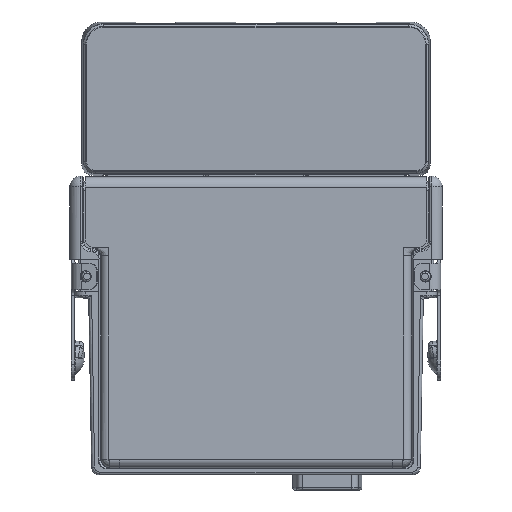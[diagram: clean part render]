
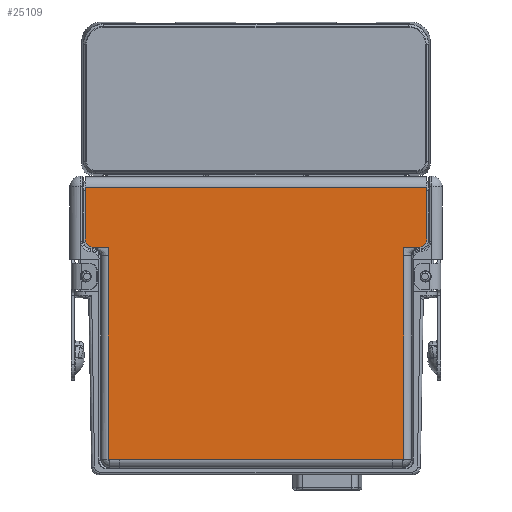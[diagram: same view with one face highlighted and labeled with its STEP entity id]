
A CAD part, left-side view. The second image highlights one B-rep face of the part: STEP entity #25109.
In plain terms, the highlighted planar face has unit normal (-1, 0, 0).
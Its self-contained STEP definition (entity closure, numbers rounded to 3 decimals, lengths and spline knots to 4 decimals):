
#14=DIRECTION('',(0.,-1.,0.));
#15=VECTOR('',#14,3.179);
#16=CARTESIAN_POINT('',(-0.4475,1.5895,2.676));
#17=LINE('',#16,#15);
#68=CARTESIAN_POINT('',(-0.4475,1.5095,2.2));
#69=DIRECTION('',(-1.,0.,0.));
#70=DIRECTION('',(0.,1.,0.));
#71=AXIS2_PLACEMENT_3D('',#68,#69,#70);
#73=DIRECTION('',(0.,-1.,0.));
#74=VECTOR('',#73,0.133);
#75=CARTESIAN_POINT('',(-0.4475,1.5095,2.12));
#76=LINE('',#75,#74);
#85=DIRECTION('',(0.,0.,-1.));
#86=VECTOR('',#85,0.476);
#87=CARTESIAN_POINT('',(-0.4475,1.5895,2.676));
#88=LINE('',#87,#86);
#89=DIRECTION('',(0.,0.,1.));
#90=VECTOR('',#89,0.476);
#91=CARTESIAN_POINT('',(-0.4475,-1.5895,2.2));
#92=LINE('',#91,#90);
#93=DIRECTION('',(0.,0.,1.));
#94=VECTOR('',#93,0.079);
#95=CARTESIAN_POINT('',(-0.4475,-1.3765,2.041));
#96=LINE('',#95,#94);
#97=DIRECTION('',(0.,-1.,0.));
#98=VECTOR('',#97,0.105);
#99=CARTESIAN_POINT('',(-0.4475,-1.2715,0.146));
#100=LINE('',#99,#98);
#101=DIRECTION('',(0.,-1.,0.));
#102=VECTOR('',#101,0.105);
#103=CARTESIAN_POINT('',(-0.4475,1.3765,0.146));
#104=LINE('',#103,#102);
#105=DIRECTION('',(0.,0.,1.));
#106=VECTOR('',#105,0.079);
#107=CARTESIAN_POINT('',(-0.4475,1.3765,2.041));
#108=LINE('',#107,#106);
#126=CARTESIAN_POINT('',(-0.4475,-1.5095,2.2));
#127=DIRECTION('',(-1.,0.,0.));
#128=DIRECTION('',(0.,0.,-1.));
#129=AXIS2_PLACEMENT_3D('',#126,#127,#128);
#163=DIRECTION('',(0.,0.,1.));
#164=VECTOR('',#163,1.895);
#165=CARTESIAN_POINT('',(-0.4475,1.3765,0.146));
#166=LINE('',#165,#164);
#222=DIRECTION('',(0.,-1.,0.));
#223=VECTOR('',#222,2.543);
#224=CARTESIAN_POINT('',(-0.4475,1.2715,0.146));
#225=LINE('',#224,#223);
#238=DIRECTION('',(0.,0.,1.));
#239=VECTOR('',#238,1.895);
#240=CARTESIAN_POINT('',(-0.4475,-1.3765,0.146));
#241=LINE('',#240,#239);
#273=DIRECTION('',(0.,-1.,0.));
#274=VECTOR('',#273,0.133);
#275=CARTESIAN_POINT('',(-0.4475,-1.3765,2.12));
#276=LINE('',#275,#274);
#23966=CARTESIAN_POINT('',(-0.4475,-1.5895,2.676));
#23967=VERTEX_POINT('',#23966);
#23968=CARTESIAN_POINT('',(-0.4475,1.5895,2.676));
#23969=VERTEX_POINT('',#23968);
#23998=CARTESIAN_POINT('',(-0.4475,1.2715,0.146));
#23999=CARTESIAN_POINT('',(-0.4475,-1.2715,0.146));
#24000=VERTEX_POINT('',#23998);
#24001=VERTEX_POINT('',#23999);
#24010=CARTESIAN_POINT('',(-0.4475,-1.3765,0.146));
#24011=VERTEX_POINT('',#24010);
#24022=CARTESIAN_POINT('',(-0.4475,1.3765,0.146));
#24023=VERTEX_POINT('',#24022);
#24071=CARTESIAN_POINT('',(-0.4475,1.5095,2.12));
#24073=VERTEX_POINT('',#24071);
#24076=CARTESIAN_POINT('',(-0.4475,1.5895,2.2));
#24077=VERTEX_POINT('',#24076);
#24079=CARTESIAN_POINT('',(-0.4475,-1.5895,2.2));
#24081=VERTEX_POINT('',#24079);
#24084=CARTESIAN_POINT('',(-0.4475,-1.5095,2.12));
#24085=VERTEX_POINT('',#24084);
#24098=CARTESIAN_POINT('',(-0.4475,-1.3765,2.041));
#24099=VERTEX_POINT('',#24098);
#24102=CARTESIAN_POINT('',(-0.4475,-1.3765,2.12));
#24103=VERTEX_POINT('',#24102);
#24110=CARTESIAN_POINT('',(-0.4475,1.3765,2.041));
#24111=CARTESIAN_POINT('',(-0.4475,1.3765,2.12));
#24112=VERTEX_POINT('',#24110);
#24113=VERTEX_POINT('',#24111);
#25078=CARTESIAN_POINT('',(-0.4475,0.,1.421));
#25079=DIRECTION('',(-1.,0.,0.));
#25080=DIRECTION('',(0.,1.,0.));
#25081=AXIS2_PLACEMENT_3D('',#25078,#25079,#25080);
#25082=PLANE('',#25081);
#25083=ORIENTED_EDGE('',*,*,#25058,.F.);
#25084=ORIENTED_EDGE('',*,*,#25043,.F.);
#25085=ORIENTED_EDGE('',*,*,#24964,.T.);
#25087=ORIENTED_EDGE('',*,*,#25086,.F.);
#25089=ORIENTED_EDGE('',*,*,#25088,.F.);
#25091=ORIENTED_EDGE('',*,*,#25090,.F.);
#25093=ORIENTED_EDGE('',*,*,#25092,.F.);
#25095=ORIENTED_EDGE('',*,*,#25094,.F.);
#25097=ORIENTED_EDGE('',*,*,#25096,.F.);
#25099=ORIENTED_EDGE('',*,*,#25098,.F.);
#25101=ORIENTED_EDGE('',*,*,#25100,.F.);
#25103=ORIENTED_EDGE('',*,*,#25102,.T.);
#25105=ORIENTED_EDGE('',*,*,#25104,.T.);
#25106=ORIENTED_EDGE('',*,*,#25069,.F.);
#25107=EDGE_LOOP('',(#25083,#25084,#25085,#25087,#25089,#25091,#25093,#25095,
#25097,#25099,#25101,#25103,#25105,#25106));
#25108=FACE_OUTER_BOUND('',#25107,.F.);
#25109=ADVANCED_FACE('',(#25108),#25082,.T.);
#72=CIRCLE('',#71,0.08);
#130=CIRCLE('',#129,0.08);
#24964=EDGE_CURVE('',#23969,#23967,#17,.T.);
#25043=EDGE_CURVE('',#23969,#24077,#88,.T.);
#25058=EDGE_CURVE('',#24077,#24073,#72,.T.);
#25069=EDGE_CURVE('',#24073,#24113,#76,.T.);
#25086=EDGE_CURVE('',#24081,#23967,#92,.T.);
#25088=EDGE_CURVE('',#24085,#24081,#130,.T.);
#25090=EDGE_CURVE('',#24103,#24085,#276,.T.);
#25092=EDGE_CURVE('',#24099,#24103,#96,.T.);
#25094=EDGE_CURVE('',#24011,#24099,#241,.T.);
#25096=EDGE_CURVE('',#24001,#24011,#100,.T.);
#25098=EDGE_CURVE('',#24000,#24001,#225,.T.);
#25100=EDGE_CURVE('',#24023,#24000,#104,.T.);
#25102=EDGE_CURVE('',#24023,#24112,#166,.T.);
#25104=EDGE_CURVE('',#24112,#24113,#108,.T.);
